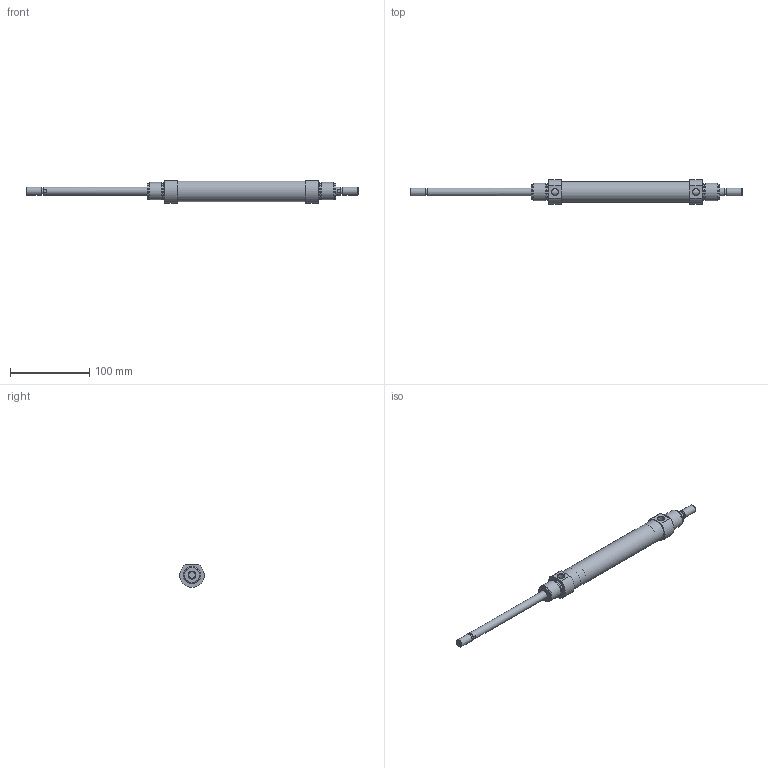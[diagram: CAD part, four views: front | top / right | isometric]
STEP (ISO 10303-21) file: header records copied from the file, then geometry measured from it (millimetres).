
FILE_DESCRIPTION( ( 'STEP AP203' ), '1' );
FILE_NAME( '//expscmdclustefs.cadenas.external/client_exchange/iodir/jobs/output/wkb68465166_no0/STEP/M101-025-0125--__0__2_03.stp', ' ', ( ' ' ), ( ' ' ), 'PSStep 15.0.47', 'PARTsolutions', ' ' );
FILE_SCHEMA( ( 'CONFIG_CONTROL_DESIGN' ) );
Length unit declared in the file: millimetre
Products named in the file (3): M101-025-0125-- [0]; HI_M101-025-0125---[0]-z; HI_M101-025-0125---[0]-k
Assembly tree (2 placements, depth 2):
  M101-025-0125-- [0]
    HI_M101-025-0125---[0]-z
    HI_M101-025-0125---[0]-k
Bounding box: 419 x 31 x 28.79 mm (x, y, z)
Volume: 91157.1 mm3; surface area: 50881.7 mm2
Topology: 2 solids, 2 shells, 63 faces, 123 edges, 74 vertices
Faces by surface type: plane 28, cylinder 23, cone 10, torus 2
Full cylindrical faces by diameter (mm): 8.16 x2, 8.566 x2, 10 x6, 20.16 x4, 22 x4, 25 x2, 26.6 x1
Entity records: 1700 total; most frequent: CARTESIAN_POINT 390, DIRECTION 276, ORIENTED_EDGE 176, AXIS2_PLACEMENT_3D 124, EDGE_LOOP 112, EDGE_CURVE 88, FACE_OUTER_BOUND 86, VERTEX_POINT 72
